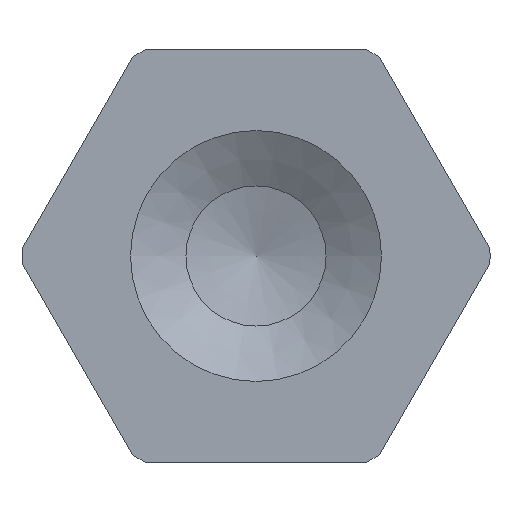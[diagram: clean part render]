
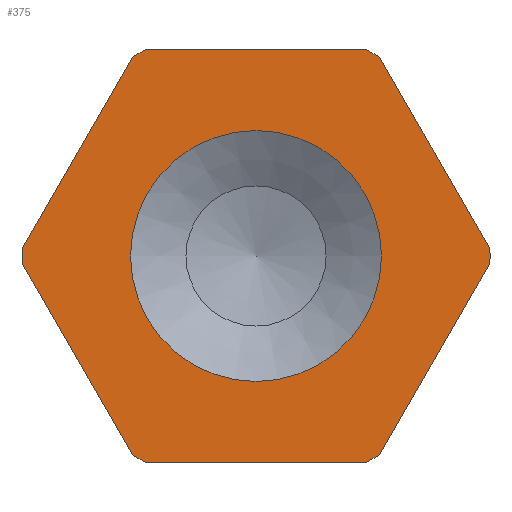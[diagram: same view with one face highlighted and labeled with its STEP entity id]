
A CAD part, left-side view. The second image highlights one B-rep face of the part: STEP entity #375.
In plain terms, the highlighted planar face has unit normal (-1, 0, 0).
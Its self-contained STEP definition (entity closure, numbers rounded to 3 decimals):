
#18=LINE($,#602,#42);
#19=LINE($,#606,#43);
#20=LINE($,#610,#44);
#21=LINE($,#614,#45);
#22=LINE($,#618,#46);
#23=LINE($,#622,#47);
#42=VECTOR($,#482,3.394);
#43=VECTOR($,#485,3.394);
#44=VECTOR($,#488,3.394);
#45=VECTOR($,#491,3.394);
#46=VECTOR($,#494,3.394);
#47=VECTOR($,#497,3.394);
#61=PLANE($,#412);
#84=FACE_BOUND($,#122,.T.);
#85=FACE_BOUND($,#123,.T.);
#122=EDGE_LOOP($,(#269));
#123=EDGE_LOOP($,(#270,#271,#272,#273,#274,#275,#276,#277,#278,#279,#280,
#281));
#150=CIRCLE($,#401,1.93);
#159=CIRCLE($,#413,3.6);
#160=CIRCLE($,#414,3.6);
#161=CIRCLE($,#415,3.6);
#162=CIRCLE($,#416,3.6);
#163=CIRCLE($,#417,3.6);
#164=CIRCLE($,#418,3.6);
#172=VERTEX_POINT($,#567);
#187=VERTEX_POINT($,#600);
#188=VERTEX_POINT($,#601);
#189=VERTEX_POINT($,#603);
#190=VERTEX_POINT($,#605);
#191=VERTEX_POINT($,#607);
#192=VERTEX_POINT($,#609);
#193=VERTEX_POINT($,#611);
#194=VERTEX_POINT($,#613);
#195=VERTEX_POINT($,#615);
#196=VERTEX_POINT($,#617);
#197=VERTEX_POINT($,#619);
#198=VERTEX_POINT($,#621);
#206=EDGE_CURVE($,#172,#172,#150,.T.);
#221=EDGE_CURVE($,#187,#188,#18,.T.);
#222=EDGE_CURVE($,#188,#189,#159,.T.);
#223=EDGE_CURVE($,#189,#190,#19,.T.);
#224=EDGE_CURVE($,#190,#191,#160,.T.);
#225=EDGE_CURVE($,#191,#192,#20,.T.);
#226=EDGE_CURVE($,#192,#193,#161,.T.);
#227=EDGE_CURVE($,#193,#194,#21,.T.);
#228=EDGE_CURVE($,#194,#195,#162,.T.);
#229=EDGE_CURVE($,#195,#196,#22,.T.);
#230=EDGE_CURVE($,#196,#197,#163,.T.);
#231=EDGE_CURVE($,#197,#198,#23,.T.);
#232=EDGE_CURVE($,#198,#187,#164,.T.);
#269=ORIENTED_EDGE($,*,*,#206,.T.);
#270=ORIENTED_EDGE($,*,*,#221,.T.);
#271=ORIENTED_EDGE($,*,*,#222,.T.);
#272=ORIENTED_EDGE($,*,*,#223,.T.);
#273=ORIENTED_EDGE($,*,*,#224,.T.);
#274=ORIENTED_EDGE($,*,*,#225,.T.);
#275=ORIENTED_EDGE($,*,*,#226,.T.);
#276=ORIENTED_EDGE($,*,*,#227,.T.);
#277=ORIENTED_EDGE($,*,*,#228,.T.);
#278=ORIENTED_EDGE($,*,*,#229,.T.);
#279=ORIENTED_EDGE($,*,*,#230,.T.);
#280=ORIENTED_EDGE($,*,*,#231,.T.);
#281=ORIENTED_EDGE($,*,*,#232,.T.);
#375=ADVANCED_FACE($,(#84,#85),#61,.T.);
#401=AXIS2_PLACEMENT_3D($,#568,#452,#453);
#412=AXIS2_PLACEMENT_3D($,#599,#480,#481);
#413=AXIS2_PLACEMENT_3D($,#604,#483,#484);
#414=AXIS2_PLACEMENT_3D($,#608,#486,#487);
#415=AXIS2_PLACEMENT_3D($,#612,#489,#490);
#416=AXIS2_PLACEMENT_3D($,#616,#492,#493);
#417=AXIS2_PLACEMENT_3D($,#620,#495,#496);
#418=AXIS2_PLACEMENT_3D($,#623,#498,#499);
#452=DIRECTION('center_axis',(1.,0.,0.));
#453=DIRECTION('ref_axis',(0.,-1.,0.));
#480=DIRECTION('center_axis',(-1.,0.,0.));
#481=DIRECTION('ref_axis',(0.,0.866,0.5));
#482=DIRECTION($,(0.,-1.,0.));
#483=DIRECTION('center_axis',(-1.,0.,0.));
#484=DIRECTION('ref_axis',(0.,0.5,-0.866));
#485=DIRECTION($,(0.,-0.5,0.866));
#486=DIRECTION('center_axis',(-1.,0.,0.));
#487=DIRECTION('ref_axis',(0.,0.5,-0.866));
#488=DIRECTION($,(0.,0.5,0.866));
#489=DIRECTION('center_axis',(-1.,0.,0.));
#490=DIRECTION('ref_axis',(0.,0.5,-0.866));
#491=DIRECTION($,(0.,1.,0.));
#492=DIRECTION('center_axis',(-1.,0.,0.));
#493=DIRECTION('ref_axis',(0.,0.5,-0.866));
#494=DIRECTION($,(0.,0.5,-0.866));
#495=DIRECTION('center_axis',(-1.,0.,0.));
#496=DIRECTION('ref_axis',(0.,0.5,-0.866));
#497=DIRECTION($,(0.,-0.5,-0.866));
#498=DIRECTION('center_axis',(-1.,0.,0.));
#499=DIRECTION('ref_axis',(0.,0.5,-0.866));
#567=CARTESIAN_POINT('',(-1.574,-1.93,0.));
#568=CARTESIAN_POINT('Origin',(-1.574,0.,
0.));
#599=CARTESIAN_POINT('Origin',(-1.574,0.9,-1.559));
#600=CARTESIAN_POINT('',(-1.574,1.697,-3.175));
#601=CARTESIAN_POINT('',(-1.574,-1.697,-3.175));
#602=CARTESIAN_POINT($,(-1.574,0.497,-3.175));
#603=CARTESIAN_POINT('',(-1.574,-1.901,-3.057));
#604=CARTESIAN_POINT('Origin',(-1.574,0.,
0.));
#605=CARTESIAN_POINT('',(-1.574,-3.598,-0.118));
#606=CARTESIAN_POINT($,(-1.574,-2.276,-2.408));
#607=CARTESIAN_POINT('',(-1.574,-3.598,0.118));
#608=CARTESIAN_POINT('Origin',(-1.574,0.,
0.));
#609=CARTESIAN_POINT('',(-1.574,-1.901,3.057));
#610=CARTESIAN_POINT($,(-1.574,-2.998,1.157));
#611=CARTESIAN_POINT('',(-1.574,-1.697,3.175));
#612=CARTESIAN_POINT('Origin',(-1.574,0.,
0.));
#613=CARTESIAN_POINT('',(-1.574,1.697,3.175));
#614=CARTESIAN_POINT($,(-1.574,0.403,3.175));
#615=CARTESIAN_POINT('',(-1.574,1.901,3.057));
#616=CARTESIAN_POINT('Origin',(-1.574,0.,
0.));
#617=CARTESIAN_POINT('',(-1.574,3.598,0.118));
#618=CARTESIAN_POINT($,(-1.574,3.176,0.849));
#619=CARTESIAN_POINT('',(-1.574,3.598,-0.118));
#620=CARTESIAN_POINT('Origin',(-1.574,0.,
0.));
#621=CARTESIAN_POINT('',(-1.574,1.901,-3.057));
#622=CARTESIAN_POINT($,(-1.574,2.548,-1.936));
#623=CARTESIAN_POINT('Origin',(-1.574,0.,
0.));
